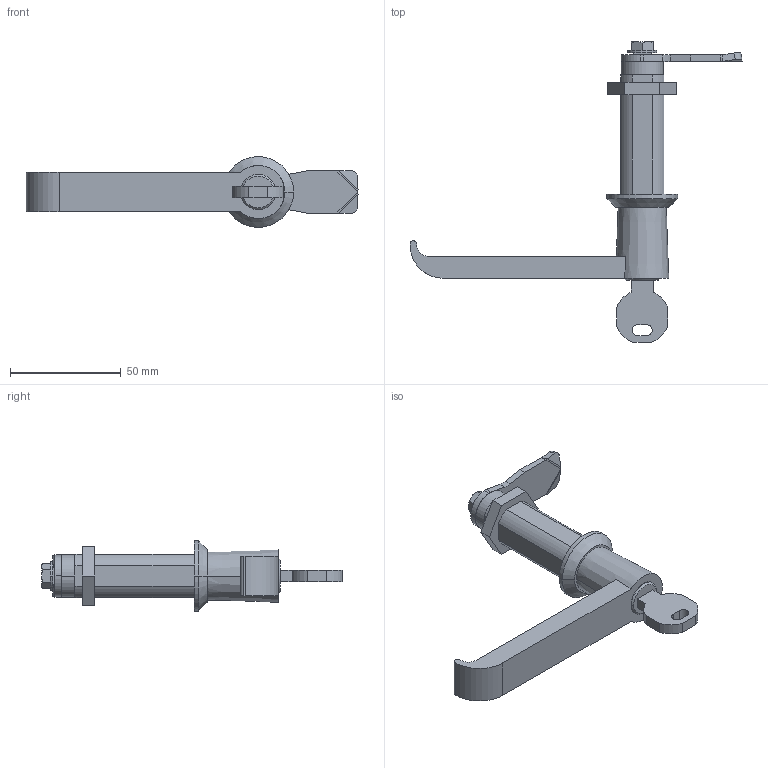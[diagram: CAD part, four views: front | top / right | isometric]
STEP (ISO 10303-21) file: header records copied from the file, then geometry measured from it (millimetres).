
FILE_DESCRIPTION (( 'STEP AP214' ), '1' );
FILE_NAME ('1.4026 Kahva 45 lukolla musta.STEP', '2025-09-11T09:20:34', ( '' ), ( '' ), 'SwSTEP 2.0', 'SolidWorks 2025', '' );
FILE_SCHEMA (( 'AUTOMOTIVE_DESIGN' ));
Length unit declared in the file: millimetre
Products named in the file (1): 1.4026 Kahva 45 lukolla musta
Bounding box: 150.14 x 136 x 32 mm (x, y, z)
Volume: 61312.2 mm3; surface area: 18514.9 mm2
Topology: 2 solids, 2 shells, 149 faces, 359 edges, 220 vertices
Faces by surface type: plane 74, cylinder 49, cone 14, bspline 4, sphere 4, torus 4
Entity records: 5266 total; most frequent: CARTESIAN_POINT 821, DIRECTION 727, ORIENTED_EDGE 710, EDGE_CURVE 355, AXIS2_PLACEMENT_3D 256, VERTEX_POINT 220, VECTOR 215, LINE 215
